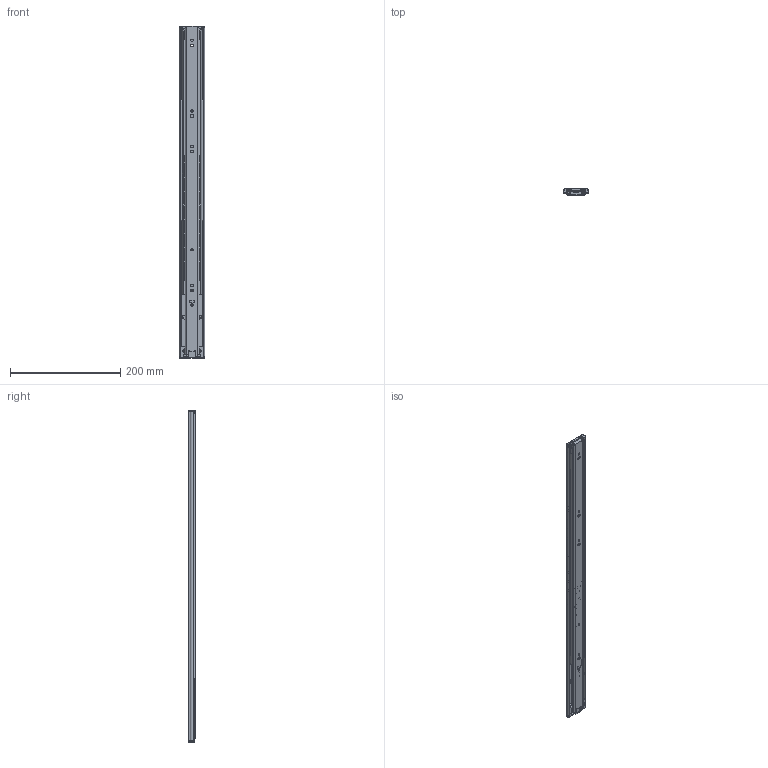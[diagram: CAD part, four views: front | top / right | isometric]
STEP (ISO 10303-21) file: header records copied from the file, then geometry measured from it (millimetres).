
FILE_DESCRIPTION((''),'2;1');
FILE_NAME('C:\Users\Jennes.SOLINGEN\Desktop\Melches\NeueFormate\TS 454613-600 SC\TS 454613 - 600mm SC.stp','2011-01-20T11:36:27',('jennes'),(''),'Autodesk Inventor 2010','Autodesk Inventor 2010','');
FILE_SCHEMA(('AUTOMOTIVE_DESIGN { 1 0 10303 214 1 1 1 1 }'));
Length unit declared in the file: millimetre
Products named in the file (24): TS 454613 - 600mm SC; Schiene gross 600; Endkappe Schiene gross; Softclose; Führung für Schieber; Gummi Puffer; Schieber; Riegel; Zylinderkolben; Zylinderstange; Kugelkäfigleiste 600; Kugel 4,75mm; Schiene mittig 600; Endkappe Schiene mittig; Kugelkäfig 600; Schiene schmall 600; Niete; Schliesser; Sicherung
Assembly tree (69 placements, depth 4):
  TS 454613 - 600mm SC
    Schiene gross 600
      Schiene gross 600
      Endkappe Schiene gross
      Softclose
        Führung für Schieber
        Gummi Puffer
        Schieber
        Riegel
        Zylinderkolben
        Zylinderstange
    Kugelkäfigleiste 600  x2
      Kugelkäfigleiste 600
      Kugel 4,75mm
    Schiene mittig 600
      Schiene mittig 600
      Endkappe Schiene mittig
    Kugelkäfig 600
      Kugelkäfig 600
      Kugel 4,75mm  x36
    Schiene schmall 600
      Schiene schmall 600
      Niete  x2
      Schliesser
      Sicherung
Bounding box: 45.98 x 12.5 x 601.1 mm (x, y, z)
Volume: 137085.8 mm3; surface area: 218776.5 mm2
Topology: 73 solids, 73 shells, 1889 faces, 5593 edges, 3587 vertices
Faces by surface type: plane 1063, cylinder 651, sphere 78, torus 49, bspline 48
Full cylindrical faces by diameter (mm): 1.15 x1, 1.78 x2, 1.8 x1, 2.35 x2, 2.45 x1, 3 x2, 3.3 x2, 4.2 x2, 4.4 x4, 4.6 x6, 4.95 x18, 5 x4, 5.3 x1, 5.4 x1, 6.4 x4, 7.8 x2, 9 x1, 9.3 x1, 9.55 x1, 11 x9
Entity records: 62029 total; most frequent: CARTESIAN_POINT 12740, ORIENTED_EDGE 10336, DIRECTION 10015, EDGE_CURVE 5168, VECTOR 3759, LINE 3759, VERTEX_POINT 3378, AXIS2_PLACEMENT_3D 3128
